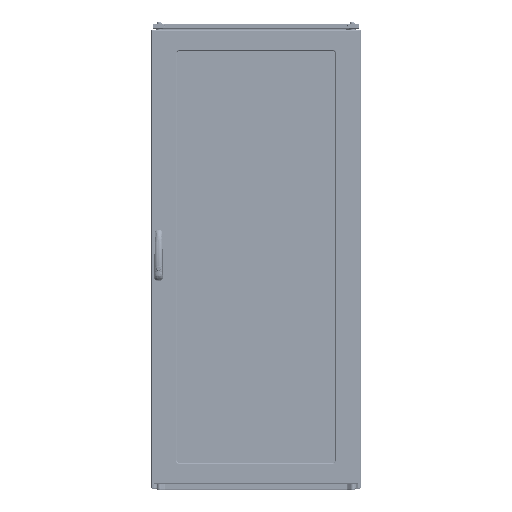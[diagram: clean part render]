
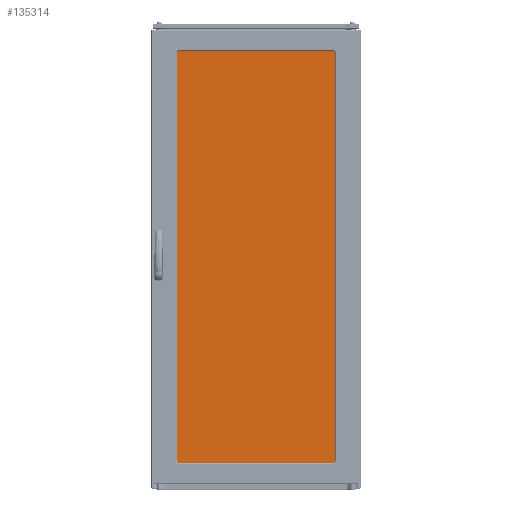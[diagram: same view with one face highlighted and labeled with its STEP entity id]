
A CAD part, top view. The second image highlights one B-rep face of the part: STEP entity #135314.
In plain terms, the highlighted planar face has unit normal (0, 0, 1).
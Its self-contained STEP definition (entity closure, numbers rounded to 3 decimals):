
#2673 = DIRECTION ( 'NONE',  ( 1., 0., 0. ) ) ;
#8094 = VECTOR ( 'NONE', #74613, 1000. ) ;
#25506 = CARTESIAN_POINT ( 'NONE',  ( 0., 0., 4. ) ) ;
#45339 = VECTOR ( 'NONE', #2673, 1000. ) ;
#46825 = EDGE_CURVE ( 'NONE', #172799, #283995, #288602, .T. ) ;
#47956 = DIRECTION ( 'NONE',  ( -1., 0., 0. ) ) ;
#56033 = FACE_OUTER_BOUND ( 'NONE', #65224, .T. ) ;
#62342 = CARTESIAN_POINT ( 'NONE',  ( 0., -646., 4. ) ) ;
#65224 = EDGE_LOOP ( 'NONE', ( #308638, #172261, #153429, #241402 ) ) ;
#74613 = DIRECTION ( 'NONE',  ( 0., -1., 0. ) ) ;
#79494 = CARTESIAN_POINT ( 'NONE',  ( 1631., -646., 4. ) ) ;
#80200 = VECTOR ( 'NONE', #264823, 1000. ) ;
#83779 = EDGE_CURVE ( 'NONE', #225187, #172799, #257307, .T. ) ;
#95380 = LINE ( 'NONE', #97046, #188934 ) ;
#97046 = CARTESIAN_POINT ( 'NONE',  ( 0., 0., 4. ) ) ;
#101482 = CARTESIAN_POINT ( 'NONE',  ( 0., 0., 4. ) ) ;
#106551 = EDGE_CURVE ( 'NONE', #164564, #225187, #95380, .T. ) ;
#134558 = CARTESIAN_POINT ( 'NONE',  ( 1631., 0., 4. ) ) ;
#135314 = ADVANCED_FACE ( 'NONE', ( #56033 ), #164236, .T. ) ;
#146825 = AXIS2_PLACEMENT_3D ( 'NONE', #211659, #216665, #260752 ) ;
#153429 = ORIENTED_EDGE ( 'NONE', *, *, #286316, .T. ) ;
#164236 = PLANE ( 'NONE',  #146825 ) ;
#164564 = VERTEX_POINT ( 'NONE', #180105 ) ;
#172261 = ORIENTED_EDGE ( 'NONE', *, *, #46825, .T. ) ;
#172799 = VERTEX_POINT ( 'NONE', #62342 ) ;
#180105 = CARTESIAN_POINT ( 'NONE',  ( 1631., 0., 4. ) ) ;
#188663 = LINE ( 'NONE', #134558, #80200 ) ;
#188934 = VECTOR ( 'NONE', #47956, 1000. ) ;
#211659 = CARTESIAN_POINT ( 'NONE',  ( 0., -646., 4. ) ) ;
#216665 = DIRECTION ( 'NONE',  ( 0., 0., 1. ) ) ;
#225187 = VERTEX_POINT ( 'NONE', #101482 ) ;
#241402 = ORIENTED_EDGE ( 'NONE', *, *, #106551, .T. ) ;
#245685 = CARTESIAN_POINT ( 'NONE',  ( 0., -646., 4. ) ) ;
#257307 = LINE ( 'NONE', #25506, #8094 ) ;
#260752 = DIRECTION ( 'NONE',  ( 1., 0., 0. ) ) ;
#264823 = DIRECTION ( 'NONE',  ( 0., 1., 0. ) ) ;
#283995 = VERTEX_POINT ( 'NONE', #79494 ) ;
#286316 = EDGE_CURVE ( 'NONE', #283995, #164564, #188663, .T. ) ;
#288602 = LINE ( 'NONE', #245685, #45339 ) ;
#308638 = ORIENTED_EDGE ( 'NONE', *, *, #83779, .T. ) ;
